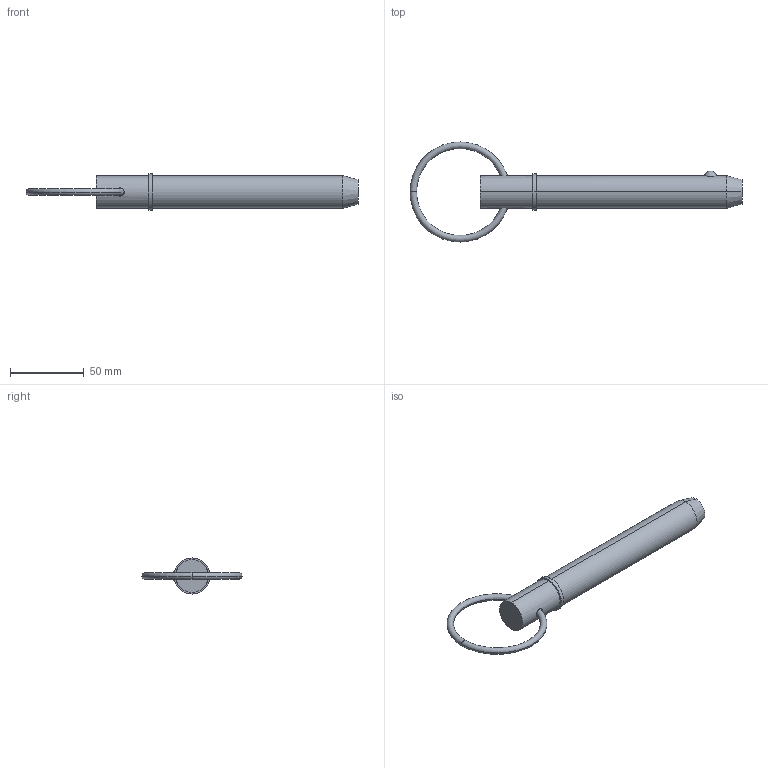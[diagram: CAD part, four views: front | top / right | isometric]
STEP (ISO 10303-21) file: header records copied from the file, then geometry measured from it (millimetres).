
FILE_DESCRIPTION (( 'STEP AP203' ), '1' );
FILE_NAME ('33016.W8845.step', '2024-11-07T11:16:51', ( '' ), ( '' ), 'SwSTEP 2.0', 'SolidWorks 2019', '' );
FILE_SCHEMA (( 'CONFIG_CONTROL_DESIGN' ));
Length unit declared in the file: millimetre
Products named in the file (3): Part1_33016.W8845; Part2_33016.W8845; 33016.W8845
Assembly tree (2 placements, depth 2):
  33016.W8845
    Part1_33016.W8845
    Part2_33016.W8845
Bounding box: 225.41 x 67.95 x 24.45 mm (x, y, z)
Volume: 70921.3 mm3; surface area: 16295.3 mm2
Topology: 2 solids, 2 shells, 22 faces, 43 edges, 26 vertices
Faces by surface type: torus 8, cylinder 6, plane 4, sphere 2, cone 2
Entity records: 1065 total; most frequent: CARTESIAN_POINT 288, DIRECTION 120, ORIENTED_EDGE 86, AXIS2_PLACEMENT_3D 56, EDGE_CURVE 43, CIRCLE 29, EDGE_LOOP 27, VERTEX_POINT 26
